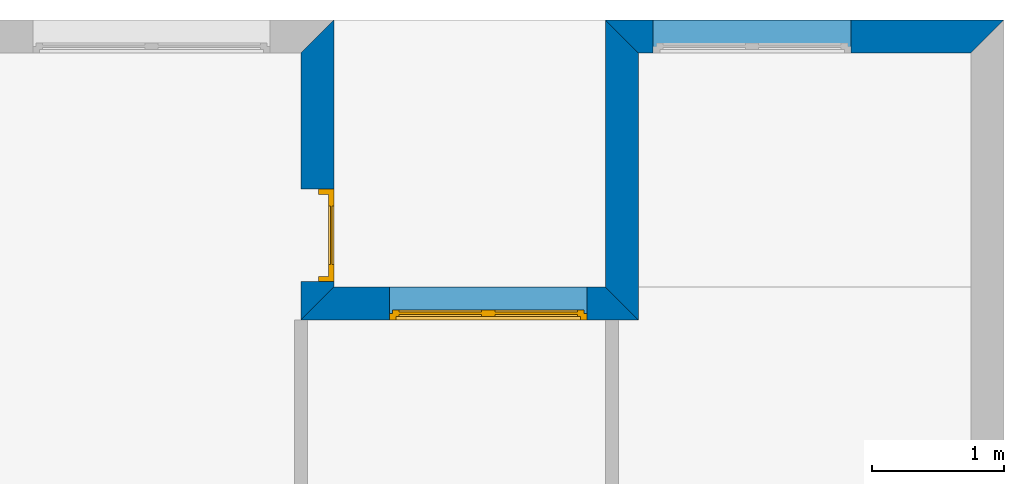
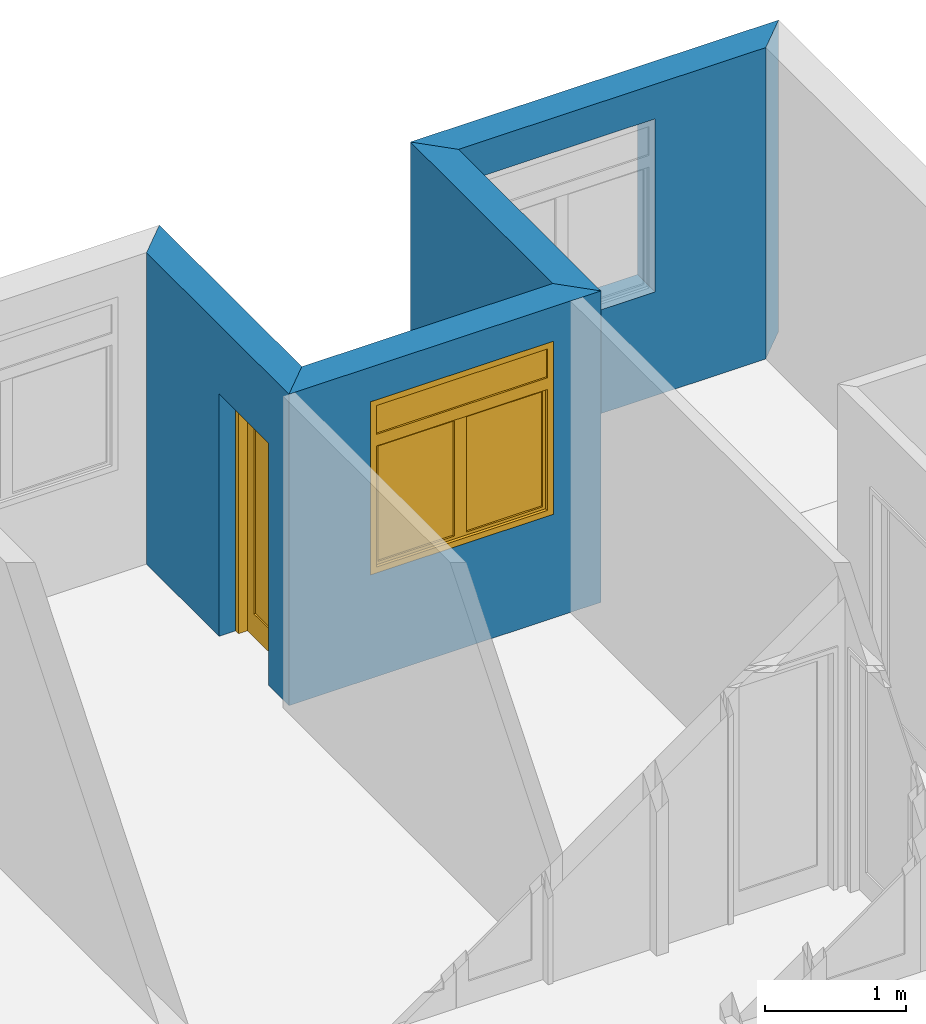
# One storey, part 10 of 11: 4 walls, 1 door, 1 window, 3 openings.
"""IFC2X3 building model written with IfcOpenShell, lengths in metres."""

from ifc_helpers import new_model, entity, si_unit, converted_unit, direction, frame, frame_2d, origin_with_axes, place, context, project, spatial, polyline, rectangle, outline, extrude, faceted_brep, source, transform, mapped, material, layer, layer_set, layer_usage, type_object, element, fill, save


model = new_model("IFC2X3")

# Units and contexts
context_of_model = context(None, 3, precision=1e-05, world=origin_with_axes(), true_north=direction((6.123234e-17, 1.0)))
plan_context = context("Plan", 3, precision=1e-05, world=origin_with_axes(), true_north=direction((6.123234e-17, 1.0)))
model_context = context("Model", 3, precision=1e-05, world=origin_with_axes(), true_north=direction((6.123234e-17, 1.0)))
ifc_project = project(units=[si_unit("LENGTHUNIT", "METRE"), si_unit("AREAUNIT", "SQUARE_METRE"), si_unit("VOLUMEUNIT", "CUBIC_METRE"), converted_unit("PLANEANGLEUNIT", "DEGREE", entity("IfcPlaneAngleMeasure", 0.017453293), si_unit("PLANEANGLEUNIT", "RADIAN"), dimensions=[0, 0, 0, 0, 0, 0, 0]), si_unit("SOLIDANGLEUNIT", "STERADIAN"), si_unit("MASSUNIT", "GRAM"), si_unit("TIMEUNIT", "SECOND"), si_unit("THERMODYNAMICTEMPERATUREUNIT", "DEGREE_CELSIUS"), si_unit("LUMINOUSINTENSITYUNIT", "LUMEN")], contexts=[context_of_model, plan_context, model_context])

# Site, building, storey
site_placement = place(None, origin_with_axes())
site = spatial("IfcSite", under=ifc_project, at=site_placement, Name="Por defecto Sitio", CompositionType="ELEMENT")
building_placement = place(site_placement, origin_with_axes())
building = spatial("IfcBuilding", under=site, at=building_placement, Name="Por defecto Edificio", CompositionType="ELEMENT")
storey_placement = place(building_placement, frame((0.0, 0.0, 13.2), z_axis=(0.0, 0.0, 1.0), x_axis=(1.0, 0.0, 0.0)))
storey = spatial("IfcBuildingStorey", under=building, at=storey_placement, Name="Cuarta", CompositionType="ELEMENT", Elevation=13.2)

# Wall
ifc_material = material(Name="Ladrillo común")
ifc_layer = layer(ifc_material, 0.25, ventilated="UNKNOWN")
ifc_layer_set = layer_set([ifc_layer], Name="Ladrillo común")
ifc_layer_usage_1 = layer_usage(ifc_layer_set, "AXIS2", "POSITIVE", 0.0)
wall_type = type_object("IfcWallType", Name="Ladrillo común", PredefinedType="NOTDEFINED")
wall_1_placement = place(storey_placement, frame((13.01417, 15.472599, 0.0), z_axis=(0.0, 0.0, 1.0), x_axis=(0.0, -1.0, 0.0)))
element("IfcWallStandardCase", 1, at=wall_1_placement, inside=storey, type_object=wall_type, material=ifc_layer_usage_1, Name="Muro-018", context=context_of_model, shape_type="SweptSolid", body=[
    extrude(outline(polyline([(0.0, 0.0), (2.0234265, 0.0), (2.2734265, 0.25), (0.25, 0.25), (0.0, 0.0)])), origin_with_axes(), (0.0, 0.0, 1.0), 2.7),
])

# Wall, opening
ifc_layer_usage_2 = layer_usage(ifc_layer_set, "AXIS2", "POSITIVE", 0.0)
wall_2_placement = place(storey_placement, frame((16.03417, 15.472599, 0.0), z_axis=(0.0, 0.0, 1.0), x_axis=(-1.0, 0.0, 0.0)))
wall_2 = element("IfcWallStandardCase", 2, at=wall_2_placement, inside=storey, type_object=wall_type, material=ifc_layer_usage_2, Name="Muro-017", context=context_of_model, shape_type="SweptSolid", body=[
    extrude(outline(polyline([(0.0, 0.0), (3.02, 0.0), (2.77, 0.25), (0.25, 0.25), (0.0, 0.0)])), origin_with_axes(), (0.0, 0.0, 1.0), 2.7),
])
opening_1_placement = place(wall_2_placement, frame((1.9075973, 0.0, 0.9), z_axis=(0.0, 0.0, 1.0), x_axis=(1.0, 0.0, 0.0)))
element("IfcOpeningElement", 3, at=opening_1_placement, cuts=wall_2, ObjectType="Opening", context=model_context, shape_type="SweptSolid", body=[
    extrude(rectangle(XDim=1.5, YDim=1.5, at=frame_2d((0.0, 0.75), x_axis=(1.0, 0.0))), frame((0.0, 0.0, 0.0), z_axis=(0.0, 1.0, 0.0), x_axis=(-1.0, 0.0, 0.0)), (0.0, 0.0, 1.0), 0.25),
])

# Wall, opening, door
ifc_layer_usage_3 = layer_usage(ifc_layer_set, "AXIS2", "NEGATIVE", 0.0)
wall_3_placement = place(storey_placement, frame((10.956053, 15.472599, 0.0), z_axis=(0.0, 0.0, 1.0), x_axis=(0.0, -1.0, 0.0)))
wall_3 = element("IfcWallStandardCase", 4, at=wall_3_placement, inside=storey, type_object=wall_type, material=ifc_layer_usage_3, Name="Muro-015", context=context_of_model, shape_type="SweptSolid", body=[
    extrude(outline(polyline([(0.25, -0.25), (2.2734265, -0.25), (2.0234265, 0.0), (0.0, 0.0), (0.25, -0.25)])), origin_with_axes(), (0.0, 0.0, 1.0), 2.7),
])
opening_2_placement = place(wall_3_placement, frame((1.63264, -0.25, 0.0), z_axis=(0.0, 0.0, 1.0), x_axis=(1.0, 0.0, 0.0)))
opening_2 = element("IfcOpeningElement", 5, at=opening_2_placement, cuts=wall_3, ObjectType="Opening", context=model_context, shape_type="SweptSolid", body=[
    extrude(rectangle(XDim=0.7, YDim=2.1, at=frame_2d((0.0, 1.05), x_axis=(-1.0, 0.0))), frame((0.0, 0.0, 0.0), z_axis=(0.0, 1.0, 0.0), x_axis=(-1.0, 0.0, 0.0)), (0.0, 0.0, 1.0), 0.25),
])
door_style = type_object("IfcDoorStyle", Name="P1 12", ConstructionType="NOTDEFINED", OperationType="SINGLE_SWING_RIGHT", ParameterTakesPrecedence=False, Sizeable=False)
shared_shape_1 = source(origin_with_axes(), model_context, "Body", "Brep", [
    faceted_brep([(0.04, 0.075, 0.0), (0.04, 0.075, 2.06), (0.04, 0.0, 2.06), (0.04, 0.0, 0.0), (0.028, 0.075, 2.06), (0.028, 0.075, 0.0), (0.028, 0.115, 2.06), (0.0, 0.115, 2.06), (0.0, 0.0, 2.06), (0.0, 0.0, 0.0), (0.0, 0.115, 0.0), (0.028, 0.115, 0.0)], [[[0, 1, 2, 3]], [[4, 1, 0, 5]], [[4, 6, 7, 8, 2, 1]], [[9, 3, 2, 8]], [[5, 0, 3, 9, 10, 11]], [[6, 4, 5, 11]], [[6, 11, 10, 7]], [[8, 7, 10, 9]]]),
    faceted_brep([(0.672, 0.075, 2.06), (0.66, 0.075, 2.06), (0.66, 0.0, 2.06), (0.7, 0.0, 2.06), (0.7, 0.115, 2.06), (0.672, 0.115, 2.06), (0.672, 0.075, 0.0), (0.66, 0.075, 0.0), (0.66, 0.0, 0.0), (0.7, 0.0, 0.0), (0.7, 0.115, 0.0), (0.672, 0.115, 0.0)], [[[0, 1, 2, 3, 4, 5]], [[1, 0, 6, 7]], [[1, 7, 8, 2]], [[8, 9, 3, 2]], [[9, 10, 4, 3]], [[11, 5, 4, 10]], [[0, 5, 11, 6]], [[6, 11, 10, 9, 8, 7]]]),
    faceted_brep([(0.028, 0.115, 2.072), (0.028, 0.115, 2.06), (0.0, 0.115, 2.06), (0.0, 0.115, 2.1), (0.7, 0.115, 2.1), (0.7, 0.115, 2.06), (0.672, 0.115, 2.06), (0.672, 0.115, 2.072), (0.028, 0.075, 2.072), (0.028, 0.075, 2.06), (0.04, 0.075, 2.06), (0.04, 0.0, 2.06), (0.0, 0.0, 2.06), (0.0, 0.0, 2.1), (0.7, 0.0, 2.1), (0.7, 0.0, 2.06), (0.672, 0.075, 2.06), (0.66, 0.0, 2.06), (0.66, 0.075, 2.06), (0.672, 0.075, 2.072)], [[[0, 1, 2, 3, 4, 5, 6, 7]], [[1, 0, 8, 9]], [[9, 10, 11, 12, 2, 1]], [[13, 3, 2, 12]], [[14, 4, 3, 13]], [[15, 5, 4, 14]], [[16, 6, 5, 15, 17, 18]], [[7, 6, 16, 19]], [[0, 7, 19, 8]], [[16, 18, 10, 9, 8, 19]], [[10, 18, 17, 11]], [[14, 13, 12, 11, 17, 15]]]),
    faceted_brep([(0.672, 0.115, 0.2), (0.672, 0.075, 0.2), (0.572, 0.075, 0.2), (0.572, 0.115, 0.2), (0.672, 0.115, 1.972), (0.672, 0.075, 1.972), (0.572, 0.075, 1.972), (0.572, 0.115, 1.972)], [[[0, 1, 2, 3]], [[4, 5, 1, 0]], [[1, 5, 6, 2]], [[3, 2, 6, 7]], [[0, 3, 7, 4]], [[7, 6, 5, 4]]]),
    faceted_brep([(0.028, 0.115, 0.2), (0.028, 0.075, 0.2), (0.028, 0.075, 1.972), (0.028, 0.115, 1.972), (0.128, 0.115, 0.2), (0.128, 0.075, 0.2), (0.128, 0.075, 1.972), (0.128, 0.115, 1.972)], [[[0, 1, 2, 3]], [[4, 5, 1, 0]], [[1, 5, 6, 2]], [[3, 2, 6, 7]], [[0, 3, 7, 4]], [[7, 6, 5, 4]]]),
    faceted_brep([(0.672, 0.115, 0.0), (0.672, 0.075, 0.0), (0.028, 0.075, 0.0), (0.028, 0.115, 0.0), (0.672, 0.115, 0.2), (0.672, 0.075, 0.2), (0.572, 0.075, 0.2), (0.128, 0.075, 0.2), (0.028, 0.075, 0.2), (0.028, 0.115, 0.2), (0.128, 0.115, 0.2), (0.572, 0.115, 0.2)], [[[0, 1, 2, 3]], [[4, 5, 1, 0]], [[1, 5, 6, 7, 8, 2]], [[3, 2, 8, 9]], [[0, 3, 9, 10, 11, 4]], [[11, 6, 5, 4]], [[10, 7, 6, 11]], [[9, 8, 7, 10]]]),
    faceted_brep([(0.672, 0.115, 2.072), (0.672, 0.075, 2.072), (0.672, 0.075, 1.972), (0.672, 0.115, 1.972), (0.028, 0.115, 2.072), (0.028, 0.075, 2.072), (0.028, 0.075, 1.972), (0.128, 0.075, 1.972), (0.572, 0.075, 1.972), (0.572, 0.115, 1.972), (0.128, 0.115, 1.972), (0.028, 0.115, 1.972)], [[[0, 1, 2, 3]], [[4, 5, 1, 0]], [[1, 5, 6, 7, 8, 2]], [[3, 2, 8, 9]], [[0, 3, 9, 10, 11, 4]], [[11, 6, 5, 4]], [[10, 7, 6, 11]], [[9, 8, 7, 10]]]),
    faceted_brep([(0.572, 0.101, 0.2), (0.572, 0.089, 0.2), (0.128, 0.089, 0.2), (0.128, 0.101, 0.2), (0.572, 0.101, 1.972), (0.572, 0.089, 1.972), (0.128, 0.089, 1.972), (0.128, 0.101, 1.972)], [[[0, 1, 2, 3]], [[4, 5, 1, 0]], [[1, 5, 6, 2]], [[3, 2, 6, 7]], [[0, 3, 7, 4]], [[7, 6, 5, 4]]]),
])
door_placement = place(opening_2_placement, frame((-0.35, 0.135, 0.0), z_axis=(0.0, 0.0, 1.0), x_axis=(1.0, 0.0, 0.0)))
door = element("IfcDoor", 6, at=door_placement, inside=storey, type_object=door_style, Name="P21", OverallHeight=2.1, OverallWidth=0.7, context=model_context, shape_type="MappedRepresentation", body=[
    mapped(shared_shape_1, transform((0.0, 0.0, 0.0), scale=1.0)),
])
fill(opening_2, door)

# Wall, opening, window
ifc_layer_usage_4 = layer_usage(ifc_layer_set, "AXIS2", "NEGATIVE", 0.0)
wall_4_placement = place(storey_placement, frame((10.956053, 13.449173, 0.0), z_axis=(0.0, 0.0, 1.0), x_axis=(1.0, 0.0, 0.0)))
wall_4 = element("IfcWallStandardCase", 7, at=wall_4_placement, inside=storey, type_object=wall_type, material=ifc_layer_usage_4, Name="Muro-016", context=context_of_model, shape_type="SweptSolid", body=[
    extrude(outline(polyline([(-0.25, -0.25), (2.3081164, -0.25), (2.0581164, 0.0), (0.0, 0.0), (-0.25, -0.25)])), origin_with_axes(), (0.0, 0.0, 1.0), 2.7),
])
opening_3_placement = place(wall_4_placement, frame((1.1700422, -0.25, 0.9), z_axis=(0.0, 0.0, 1.0), x_axis=(1.0, 0.0, 0.0)))
opening_3 = element("IfcOpeningElement", 8, at=opening_3_placement, cuts=wall_4, ObjectType="Opening", context=model_context, shape_type="SweptSolid", body=[
    extrude(rectangle(XDim=1.5, YDim=1.5, at=frame_2d((0.0, 0.75), x_axis=(-1.0, 0.0))), frame((0.0, 0.0, 0.0), z_axis=(0.0, 1.0, 0.0), x_axis=(-1.0, 0.0, 0.0)), (0.0, 0.0, 1.0), 0.25),
])
window_style = type_object("IfcWindowStyle", Name="V M Doble 12", ConstructionType="NOTDEFINED", OperationType="DOUBLE_PANEL_HORIZONTAL", ParameterTakesPrecedence=False, Sizeable=False)
shared_shape_2 = source(origin_with_axes(), model_context, "Body", "Brep", [
    faceted_brep([(0.025, 0.05, 0.05), (0.0, 0.05, 0.05), (0.0, 0.05, 1.45), (0.05, 0.05, 1.45), (0.05, 0.05, 1.2), (0.05, 0.05, 1.125), (0.025, 0.05, 1.125), (0.025, 0.025, 0.05), (0.05, 0.025, 0.05), (0.05, 0.0, 0.05), (0.0, 0.0, 0.05), (0.0, 0.0, 1.45), (0.05, 0.0, 1.45), (0.05, 0.0, 1.2), (0.05, 0.025, 1.125), (0.05, 0.0, 1.1), (0.05, 0.025, 1.1), (0.025, 0.025, 1.125)], [[[0, 1, 2, 3, 4, 5, 6]], [[7, 8, 9, 10, 1, 0]], [[2, 1, 10, 11]], [[3, 2, 11, 12]], [[4, 3, 12, 13]], [[14, 5, 4, 13, 15, 16]], [[14, 17, 6, 5]], [[6, 17, 7, 0]], [[16, 8, 7, 17, 14]], [[16, 15, 9, 8]], [[13, 12, 11, 10, 9, 15]]]),
    faceted_brep([(1.475, 0.05, 1.125), (1.45, 0.05, 1.125), (1.45, 0.05, 1.2), (1.45, 0.05, 1.45), (1.5, 0.05, 1.45), (1.5, 0.05, 0.05), (1.475, 0.05, 0.05), (1.475, 0.025, 1.125), (1.45, 0.025, 1.125), (1.45, 0.025, 1.1), (1.45, 0.0, 1.1), (1.45, 0.0, 1.2), (1.45, 0.0, 1.45), (1.5, 0.0, 1.45), (1.5, 0.0, 0.05), (1.475, 0.025, 0.05), (1.45, 0.0, 0.05), (1.45, 0.025, 0.05)], [[[0, 1, 2, 3, 4, 5, 6]], [[0, 7, 8, 1]], [[8, 9, 10, 11, 2, 1]], [[3, 2, 11, 12]], [[4, 3, 12, 13]], [[5, 4, 13, 14]], [[15, 6, 5, 14, 16, 17]], [[6, 15, 7, 0]], [[17, 9, 8, 7, 15]], [[17, 16, 10, 9]], [[14, 13, 12, 11, 10, 16]]]),
    faceted_brep([(0.05, 0.05, 1.125), (0.05, 0.05, 1.2), (1.45, 0.05, 1.2), (1.45, 0.05, 1.125), (0.75, 0.05, 1.125), (0.05, 0.025, 1.125), (0.05, 0.025, 1.1), (0.05, 0.0, 1.1), (0.05, 0.0, 1.2), (1.45, 0.0, 1.2), (1.45, 0.025, 1.125), (1.45, 0.0, 1.1), (1.45, 0.025, 1.1), (0.75, 0.025, 1.125)], [[[0, 1, 2, 3, 4]], [[5, 6, 7, 8, 1, 0]], [[2, 1, 8, 9]], [[10, 3, 2, 9, 11, 12]], [[10, 13, 4, 3]], [[4, 13, 5, 0]], [[12, 6, 5, 13, 10]], [[12, 11, 7, 6]], [[9, 8, 7, 11]]]),
    faceted_brep([(1.45, 0.025, 0.05), (1.45, 0.0, 0.05), (1.5, 0.0, 0.05), (1.5, 0.05, 0.05), (1.475, 0.05, 0.05), (1.475, 0.025, 0.05), (0.05, 0.025, 0.05), (0.05, 0.0, 0.05), (0.0, 0.0, 0.05), (0.0, 0.0, 0.0), (1.5, 0.0, 0.0), (1.5, 0.05, 0.0), (0.025, 0.05, 0.025), (0.75, 0.05, 0.025), (1.475, 0.05, 0.025), (0.0, 0.05, 0.0), (0.0, 0.05, 0.05), (0.025, 0.05, 0.05), (1.475, 0.025, 0.025), (0.75, 0.025, 0.025), (0.025, 0.025, 0.025), (0.025, 0.025, 0.05)], [[[0, 1, 2, 3, 4, 5]], [[6, 7, 1, 0]], [[8, 9, 10, 2, 1, 7]], [[11, 3, 2, 10]], [[12, 13, 14, 4, 3, 11, 15, 16, 17]], [[14, 18, 5, 4]], [[5, 18, 19, 20, 21, 6, 0]], [[21, 17, 16, 8, 7, 6]], [[16, 15, 9, 8]], [[15, 11, 10, 9]], [[12, 20, 19, 13]], [[13, 19, 18, 14]], [[21, 20, 12, 17]]]),
    faceted_brep([(1.45, 0.0, 1.45), (1.45, 0.05, 1.45), (1.5, 0.05, 1.45), (1.5, 0.0, 1.45), (0.05, 0.0, 1.45), (0.05, 0.05, 1.45), (0.0, 0.05, 1.45), (0.0, 0.05, 1.5), (1.5, 0.05, 1.5), (1.5, 0.0, 1.5), (0.0, 0.0, 1.5), (0.0, 0.0, 1.45)], [[[0, 1, 2, 3]], [[4, 5, 1, 0]], [[1, 5, 6, 7, 8, 2]], [[3, 2, 8, 9]], [[0, 3, 9, 10, 11, 4]], [[11, 6, 5, 4]], [[10, 7, 6, 11]], [[9, 8, 7, 10]]]),
    faceted_brep([(1.425, 0.025, 0.075), (1.425, 0.025, 1.075), (1.425, 0.075, 1.075), (1.425, 0.075, 0.075), (1.475, 0.025, 0.075), (1.475, 0.025, 1.075), (1.475, 0.075, 1.075), (1.475, 0.075, 0.075)], [[[0, 1, 2, 3]], [[0, 4, 5, 1]], [[1, 5, 6, 2]], [[3, 2, 6, 7]], [[4, 0, 3, 7]], [[5, 4, 7, 6]]]),
    faceted_brep([(0.75, 0.025, 0.075), (0.75, 0.025, 1.075), (0.75, 0.075, 1.075), (0.75, 0.075, 0.075), (0.8, 0.025, 0.075), (0.8, 0.025, 1.075), (0.8, 0.075, 1.075), (0.8, 0.075, 0.075)], [[[0, 1, 2, 3]], [[0, 4, 5, 1]], [[1, 5, 6, 2]], [[3, 2, 6, 7]], [[4, 0, 3, 7]], [[5, 4, 7, 6]]]),
    faceted_brep([(0.75, 0.025, 0.025), (0.75, 0.025, 0.075), (0.75, 0.075, 0.075), (0.75, 0.075, 0.025), (1.475, 0.025, 0.025), (1.475, 0.025, 0.075), (1.425, 0.025, 0.075), (0.8, 0.025, 0.075), (0.8, 0.075, 0.075), (1.425, 0.075, 0.075), (1.475, 0.075, 0.075), (1.475, 0.075, 0.025)], [[[0, 1, 2, 3]], [[0, 4, 5, 6, 7, 1]], [[1, 7, 8, 2]], [[3, 2, 8, 9, 10, 11]], [[4, 0, 3, 11]], [[5, 4, 11, 10]], [[6, 5, 10, 9]], [[7, 6, 9, 8]]]),
    faceted_brep([(1.475, 0.025, 1.125), (1.475, 0.025, 1.075), (1.475, 0.075, 1.075), (1.475, 0.075, 1.125), (0.75, 0.025, 1.125), (0.75, 0.025, 1.075), (0.8, 0.025, 1.075), (1.425, 0.025, 1.075), (1.425, 0.075, 1.075), (0.8, 0.075, 1.075), (0.75, 0.075, 1.075), (0.75, 0.075, 1.125)], [[[0, 1, 2, 3]], [[0, 4, 5, 6, 7, 1]], [[1, 7, 8, 2]], [[3, 2, 8, 9, 10, 11]], [[4, 0, 3, 11]], [[5, 4, 11, 10]], [[6, 5, 10, 9]], [[7, 6, 9, 8]]]),
    faceted_brep([(1.425, 0.04, 0.075), (0.8, 0.04, 0.075), (0.8, 0.06, 0.075), (1.425, 0.06, 0.075), (1.425, 0.04, 1.075), (0.8, 0.04, 1.075), (0.8, 0.06, 1.075), (1.425, 0.06, 1.075)], [[[0, 1, 2, 3]], [[0, 4, 5, 1]], [[1, 5, 6, 2]], [[3, 2, 6, 7]], [[4, 0, 3, 7]], [[5, 4, 7, 6]]]),
    faceted_brep([(0.7, 0.025, 0.075), (0.7, 0.025, 1.075), (0.7, 0.075, 1.075), (0.7, 0.075, 0.075), (0.75, 0.025, 0.075), (0.75, 0.025, 1.075), (0.75, 0.075, 1.075), (0.75, 0.075, 0.075)], [[[0, 1, 2, 3]], [[0, 4, 5, 1]], [[1, 5, 6, 2]], [[3, 2, 6, 7]], [[4, 0, 3, 7]], [[5, 4, 7, 6]]]),
    faceted_brep([(0.025, 0.025, 0.075), (0.025, 0.025, 1.075), (0.025, 0.075, 1.075), (0.025, 0.075, 0.075), (0.075, 0.025, 0.075), (0.075, 0.025, 1.075), (0.075, 0.075, 1.075), (0.075, 0.075, 0.075)], [[[0, 1, 2, 3]], [[0, 4, 5, 1]], [[1, 5, 6, 2]], [[3, 2, 6, 7]], [[4, 0, 3, 7]], [[5, 4, 7, 6]]]),
    faceted_brep([(0.025, 0.025, 0.025), (0.025, 0.025, 0.075), (0.025, 0.075, 0.075), (0.025, 0.075, 0.025), (0.75, 0.025, 0.025), (0.75, 0.025, 0.075), (0.7, 0.025, 0.075), (0.075, 0.025, 0.075), (0.075, 0.075, 0.075), (0.7, 0.075, 0.075), (0.75, 0.075, 0.075), (0.75, 0.075, 0.025)], [[[0, 1, 2, 3]], [[0, 4, 5, 6, 7, 1]], [[1, 7, 8, 2]], [[3, 2, 8, 9, 10, 11]], [[4, 0, 3, 11]], [[5, 4, 11, 10]], [[6, 5, 10, 9]], [[7, 6, 9, 8]]]),
    faceted_brep([(0.75, 0.025, 1.125), (0.75, 0.025, 1.075), (0.75, 0.075, 1.075), (0.75, 0.075, 1.125), (0.025, 0.025, 1.125), (0.025, 0.025, 1.075), (0.075, 0.025, 1.075), (0.7, 0.025, 1.075), (0.7, 0.075, 1.075), (0.075, 0.075, 1.075), (0.025, 0.075, 1.075), (0.025, 0.075, 1.125)], [[[0, 1, 2, 3]], [[0, 4, 5, 6, 7, 1]], [[1, 7, 8, 2]], [[3, 2, 8, 9, 10, 11]], [[4, 0, 3, 11]], [[5, 4, 11, 10]], [[6, 5, 10, 9]], [[7, 6, 9, 8]]]),
    faceted_brep([(0.7, 0.04, 0.075), (0.075, 0.04, 0.075), (0.075, 0.06, 0.075), (0.7, 0.06, 0.075), (0.7, 0.04, 1.075), (0.075, 0.04, 1.075), (0.075, 0.06, 1.075), (0.7, 0.06, 1.075)], [[[0, 1, 2, 3]], [[0, 4, 5, 1]], [[1, 5, 6, 2]], [[3, 2, 6, 7]], [[4, 0, 3, 7]], [[5, 4, 7, 6]]]),
    faceted_brep([(1.45, 0.015, 1.2), (0.05, 0.015, 1.2), (0.05, 0.035, 1.2), (1.45, 0.035, 1.2), (1.45, 0.015, 1.45), (0.05, 0.015, 1.45), (0.05, 0.035, 1.45), (1.45, 0.035, 1.45)], [[[0, 1, 2, 3]], [[0, 4, 5, 1]], [[1, 5, 6, 2]], [[3, 2, 6, 7]], [[4, 0, 3, 7]], [[5, 4, 7, 6]]]),
])
window_placement = place(opening_3_placement, frame((-0.75, 0.0, 0.0), z_axis=(0.0, 0.0, 1.0), x_axis=(1.0, 0.0, 0.0)))
window = element("IfcWindow", 9, at=window_placement, inside=storey, type_object=window_style, Name="V05", OverallHeight=1.5, OverallWidth=1.5, context=model_context, shape_type="MappedRepresentation", body=[
    mapped(shared_shape_2, transform((0.0, 0.0, 0.0), scale=1.0)),
])
fill(opening_3, window)

save(model, "model.ifc")
